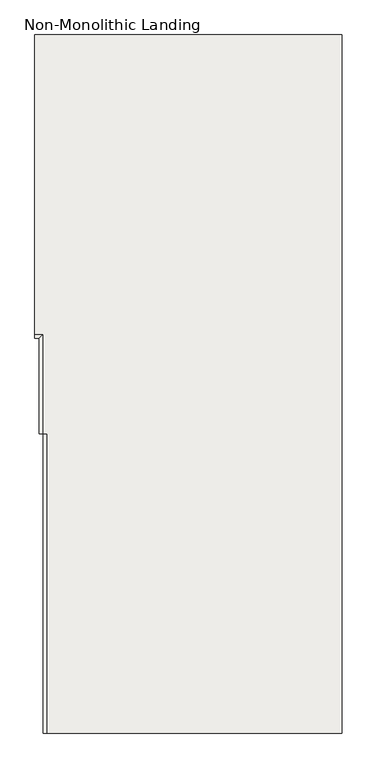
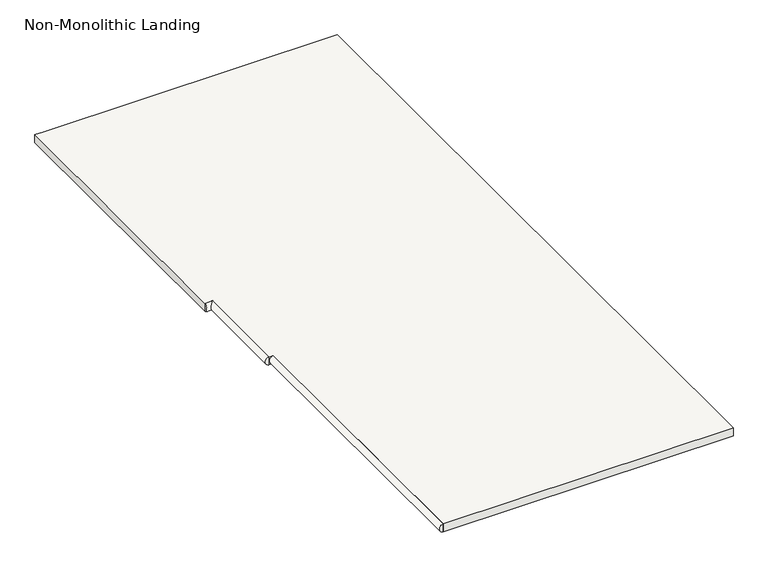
"""IFC4 building model written with IfcOpenShell, lengths in millimetres: slab geometry, Non-Monolithic Landing."""

from ifc_helpers import new_model, si_unit, frame, origin, place, context, project, spatial, circle_curve, ellipse_curve, faceted_brep, source, transform, mapped, element, save
from ifc_brep_helpers import plane_surface, cylinder_surface, advanced_brep


def non_monolithic_landing_b907bb08(model_context):
    return source(origin(), model_context, "Body", "SolidModel", [
        faceted_brep([(-16004.0481446, -1225.6871906, 1524.0), (-15991.3481446, -1225.6871906, 1524.0), (-15991.3481446, -2140.0871906, 1524.0), (-15089.6481446, -2140.0871906, 1524.0), (-15089.6481446, -6.4871906, 1524.0), (-16004.0481446, -6.4871906, 1524.0), (-16029.4481446, -6.4871906, 1524.0), (-16029.4481446, -920.8871906, 1524.0), (-16004.0481446, -920.8871906, 1524.0), (-16004.0481446, -1225.6871906, 1498.6), (-16004.0481446, -920.8871906, 1498.6), (-16029.4481446, -920.8871906, 1498.6), (-16029.4481446, -6.4871906, 1498.6), (-16004.0481446, -6.4871906, 1498.6), (-15089.6481446, -6.4871906, 1498.6), (-15089.6481446, -2140.0871906, 1498.6), (-15991.3481446, -2140.0871906, 1498.6), (-15991.3481446, -1225.6871906, 1498.6)], [[[0, 1, 2, 3, 4, 5, 6, 7, 8]], [[9, 10, 11, 12, 13, 14, 15, 16, 17]], [[1, 0, 9, 17]], [[2, 1, 17, 16]], [[3, 2, 16, 15]], [[4, 3, 15, 14]], [[5, 4, 14, 13]], [[6, 5, 13, 12]], [[7, 6, 12, 11]], [[8, 7, 11, 10]], [[0, 8, 10, 9]]]),
        advanced_brep(
        [(-15991.3481446, -1225.6871906, 1524.0), (-15991.3481446, -1225.6871906, 1498.6), (-15991.3481446, -2140.0871906, 1498.6), (-15991.3481446, -2140.0871906, 1524.0)],
        [
            (0, 1),
            (1, 0, circle_curve(frame((-15991.3481446, -1225.6871906, 1511.3), z_axis=(0.0, 1.0, 0.0), x_axis=(1.0, 0.0, 0.0)), 12.7)),
            (2, 3, circle_curve(frame((-15991.3481446, -2140.0871906, 1511.3), z_axis=(0.0, 1.0, 0.0), x_axis=(1.0, 0.0, 0.0)), 12.7)),
            (3, 0),
            (1, 2),
            (3, 2),
        ],
        [
            plane_surface(frame((-16016.7481446, -1225.6871906, 1524.0), z_axis=(0.0, 1.0, 0.0), x_axis=(0.0, 0.0, 1.0))),
            cylinder_surface(frame((-15991.3481446, -2140.0871906, 1511.3), z_axis=(0.0, -1.0, 0.0), x_axis=(1.0, 0.0, 0.0)), 12.7),
            plane_surface(frame((-15991.3481446, -2140.0871906, 1498.6), z_axis=(1.0, 0.0, 0.0), x_axis=(0.0, 1.0, 0.0))),
            plane_surface(frame((-15991.3481446, -2140.0871906, 1524.0), z_axis=(0.0, -1.0, 0.0), x_axis=(0.0, 0.0, -1.0))),
        ],
        [
            (0, [[1, 2]]),
            (1, [[3, 4, -2, 5]]),
            (2, [[6, -5, -1, -4]]),
            (3, [[-3, -6]]),
        ],
    ),
        advanced_brep(
        [(-16004.0481446, -1225.6871906, 1524.0), (-16004.0481446, -1225.6871906, 1498.6), (-16004.0481446, -920.8871906, 1524.0), (-16004.0481446, -920.8871906, 1498.6), (-16029.4481446, -920.8871906, 1524.0), (-16029.4481446, -920.8871906, 1498.6)],
        [
            (0, 1, circle_curve(frame((-16004.0481446, -1225.6871906, 1511.3), z_axis=(0.0, -1.0, 0.0), x_axis=(1.0, 0.0, 0.0)), 12.7)),
            (1, 0),
            (0, 2),
            (2, 3, ellipse_curve(frame((-16004.0481446, -920.8871906, 1511.3), z_axis=(0.7071067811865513, -0.7071067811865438, 0.0), x_axis=(-0.7071067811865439, -0.7071067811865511, 0.0)), 17.9605122, 12.7)),
            (3, 1),
            (3, 2),
            (4, 5),
            (5, 4, circle_curve(frame((-16029.4481446, -920.8871906, 1511.3), z_axis=(-1.0, 0.0, 0.0), x_axis=(0.0, 1.0, 0.0)), 12.7)),
            (2, 4),
            (5, 3),
        ],
        [
            plane_surface(frame((-16029.4481446, -1225.6871906, 1524.0), z_axis=(0.0, -1.0, 0.0), x_axis=(0.0, 0.0, 1.0))),
            cylinder_surface(frame((-16004.0481446, -1225.6871906, 1511.3), z_axis=(0.0, -1.0, 0.0), x_axis=(1.0, 0.0, 0.0)), 12.7),
            plane_surface(frame((-16004.0481446, -1225.6871906, 1498.6), z_axis=(1.0, 0.0, 0.0), x_axis=(0.0, 1.0, 0.0))),
            plane_surface(frame((-16029.4481446, -920.8871906, 1524.0), z_axis=(-1.0, 0.0, 0.0), x_axis=(0.0, -1.0, 0.0))),
            cylinder_surface(frame((-16004.0481446, -920.8871906, 1511.3), z_axis=(1.0, 0.0, 0.0), x_axis=(0.0, 1.0, 0.0)), 12.7),
            plane_surface(frame((-16004.0481446, -920.8871906, 1498.6), z_axis=(0.0, 1.0, 0.0), x_axis=(-1.0, 0.0, 0.0))),
        ],
        [
            (0, [[1, 2]]),
            (1, [[-1, 3, 4, 5]]),
            (2, [[-2, -5, 6, -3]]),
            (3, [[7, 8]]),
            (4, [[-4, 9, -8, 10]]),
            (5, [[-6, -10, -7, -9]]),
        ],
    ),
    ])


if __name__ == "__main__":
    model = new_model("IFC4")
    model_context = context("Model", 3, world=origin())
    ifc_project = project(units=[si_unit("LENGTHUNIT", "METRE", prefix="MILLI")], contexts=[model_context])
    site = spatial("IfcSite", under=ifc_project)
    building = spatial("IfcBuilding", under=site)
    placement = place(None, origin())
    non_monolithic_landing_shape = non_monolithic_landing_b907bb08(model_context)
    element("IfcSlab", 1, ObjectType="Non-Monolithic Landing", at=placement, inside=building, context=model_context, shape_type="MappedRepresentation", body=[
        mapped(non_monolithic_landing_shape, transform((0.0, 0.0, 0.0), x_axis=(1.0, 0.0, 0.0), y_axis=(0.0, 1.0, 0.0), z_axis=(0.0, 0.0, 1.0))),
    ])
    save(model, "model.ifc")
